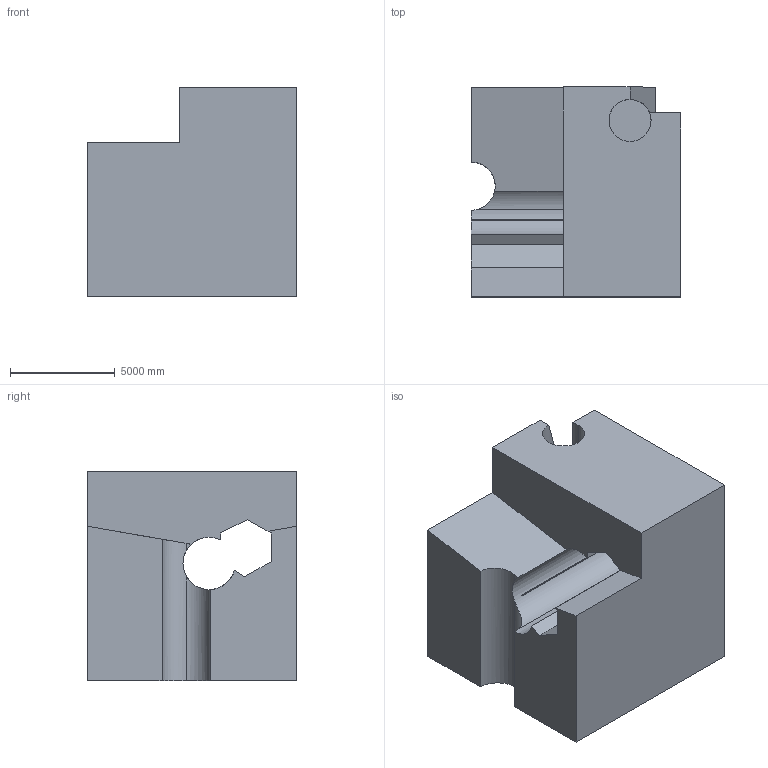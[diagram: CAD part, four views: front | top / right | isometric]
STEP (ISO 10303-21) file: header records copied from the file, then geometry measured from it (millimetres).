
FILE_DESCRIPTION (( 'STEP AP203' ), '1' );
FILE_NAME ('117.STEP', '2022-08-31T11:41:07', ( 'user' ), ( '' ), 'SwSTEP 2.0', 'SolidWorks 2021', '' );
FILE_SCHEMA (( 'CONFIG_CONTROL_DESIGN' ));
Length unit declared in the file: centimetre
Products named in the file (1): 117
Bounding box: 10000 x 10000 x 10000 mm (x, y, z)
Volume: 732620433485.4 mm3; surface area: 665716721 mm2
Topology: 1 solids, 1 shells, 30 faces, 87 edges, 58 vertices
Faces by surface type: plane 22, cylinder 8
Entity records: 1195 total; most frequent: CARTESIAN_POINT 322, ORIENTED_EDGE 174, DIRECTION 156, EDGE_CURVE 87, LINE 66, VECTOR 66, VERTEX_POINT 58, AXIS2_PLACEMENT_3D 45
